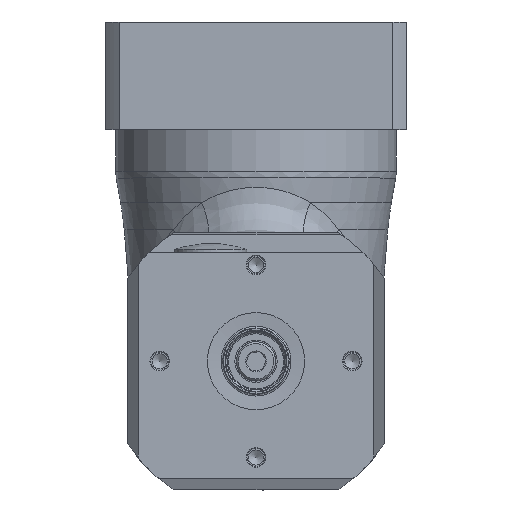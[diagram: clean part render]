
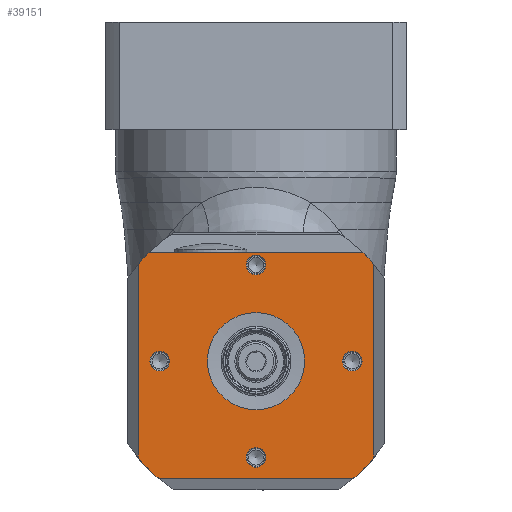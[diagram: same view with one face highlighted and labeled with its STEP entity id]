
A CAD part, top view. The second image highlights one B-rep face of the part: STEP entity #39151.
In plain terms, the highlighted planar face has unit normal (0, 0, 1).
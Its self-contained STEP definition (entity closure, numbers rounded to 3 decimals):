
#160 = CARTESIAN_POINT ( 'NONE',  ( -39., -50.5, 33. ) ) ;
#367 = DIRECTION ( 'NONE',  ( 1., 0., 0. ) ) ;
#584 = CARTESIAN_POINT ( 'NONE',  ( -16.094, 0., 33. ) ) ;
#605 = CARTESIAN_POINT ( 'NONE',  ( 39., 42.5, 33. ) ) ;
#903 = EDGE_CURVE ( 'NONE', #76636, #70971, #60408, .T. ) ;
#2125 = VECTOR ( 'NONE', #49199, 1000. ) ;
#3102 = VERTEX_POINT ( 'NONE', #27144 ) ;
#4129 = EDGE_CURVE ( 'NONE', #72243, #72243, #63704, .T. ) ;
#4152 = ORIENTED_EDGE ( 'NONE', *, *, #39782, .F. ) ;
#4273 = VERTEX_POINT ( 'NONE', #76836 ) ;
#5634 = CARTESIAN_POINT ( 'NONE',  ( -42.5, 36., 33. ) ) ;
#6003 = PLANE ( 'NONE',  #28540 ) ;
#6391 = FACE_BOUND ( 'NONE', #43576, .T. ) ;
#6790 = CARTESIAN_POINT ( 'NONE',  ( 0., 50.5, 33. ) ) ;
#6831 = ORIENTED_EDGE ( 'NONE', *, *, #903, .F. ) ;
#7122 = CARTESIAN_POINT ( 'NONE',  ( 3.25, 31.877, 33. ) ) ;
#7443 = VECTOR ( 'NONE', #60009, 1000. ) ;
#7798 = VERTEX_POINT ( 'NONE', #584 ) ;
#8491 = DIRECTION ( 'NONE',  ( -1., 0., 0. ) ) ;
#9230 = AXIS2_PLACEMENT_3D ( 'NONE', #54234, #13235, #78554 ) ;
#10264 = AXIS2_PLACEMENT_3D ( 'NONE', #21172, #20414, #44675 ) ;
#11270 = DIRECTION ( 'NONE',  ( 1., 0., 0. ) ) ;
#13235 = DIRECTION ( 'NONE',  ( 0., 0., 1. ) ) ;
#14472 = CARTESIAN_POINT ( 'NONE',  ( 0., 0., 33. ) ) ;
#14499 = VERTEX_POINT ( 'NONE', #34654 ) ;
#14635 = CARTESIAN_POINT ( 'NONE',  ( 39., 32.082, 33. ) ) ;
#17200 = AXIS2_PLACEMENT_3D ( 'NONE', #62611, #21512, #45799 ) ;
#17595 = CARTESIAN_POINT ( 'NONE',  ( -39., -32.082, 33. ) ) ;
#19543 = FACE_BOUND ( 'NONE', #66910, .T. ) ;
#20414 = DIRECTION ( 'NONE',  ( 0., 0., 1. ) ) ;
#21172 = CARTESIAN_POINT ( 'NONE',  ( -31.877, 0., 33. ) ) ;
#21512 = DIRECTION ( 'NONE',  ( 0., 0., -1. ) ) ;
#22018 = CARTESIAN_POINT ( 'NONE',  ( 0., -31.877, 33. ) ) ;
#22880 = EDGE_LOOP ( 'NONE', ( #70028 ) ) ;
#23570 = DIRECTION ( 'NONE',  ( 1., 0., 0. ) ) ;
#24251 = AXIS2_PLACEMENT_3D ( 'NONE', #22018, #46288, #27210 ) ;
#24257 = EDGE_LOOP ( 'NONE', ( #4152, #6831, #32017, #49709, #28465, #77089, #52442, #40860 ) ) ;
#24759 = CIRCLE ( 'NONE', #57779, 50.5 ) ;
#26947 = EDGE_CURVE ( 'NONE', #33069, #33069, #46033, .T. ) ;
#27144 = CARTESIAN_POINT ( 'NONE',  ( 32.082, -39., 33. ) ) ;
#27210 = DIRECTION ( 'NONE',  ( 1., 0., 0. ) ) ;
#27328 = ORIENTED_EDGE ( 'NONE', *, *, #26947, .F. ) ;
#28465 = ORIENTED_EDGE ( 'NONE', *, *, #29703, .F. ) ;
#28540 = AXIS2_PLACEMENT_3D ( 'NONE', #6790, #30681, #367 ) ;
#28781 = AXIS2_PLACEMENT_3D ( 'NONE', #71835, #53440, #11270 ) ;
#29703 = EDGE_CURVE ( 'NONE', #3102, #53754, #45955, .T. ) ;
#30681 = DIRECTION ( 'NONE',  ( 0., 0., 1. ) ) ;
#30791 = CARTESIAN_POINT ( 'NONE',  ( 0., 0., 33. ) ) ;
#30856 = ORIENTED_EDGE ( 'NONE', *, *, #67515, .F. ) ;
#32017 = ORIENTED_EDGE ( 'NONE', *, *, #43970, .F. ) ;
#32880 = CIRCLE ( 'NONE', #49395, 50.5 ) ;
#33069 = VERTEX_POINT ( 'NONE', #56572 ) ;
#34654 = CARTESIAN_POINT ( 'NONE',  ( 35.415, 36., 33. ) ) ;
#36674 = FACE_BOUND ( 'NONE', #22880, .T. ) ;
#36830 = EDGE_CURVE ( 'NONE', #53754, #38184, #24759, .T. ) ;
#36893 = LINE ( 'NONE', #605, #7443 ) ;
#37086 = EDGE_CURVE ( 'NONE', #7798, #7798, #64172, .T. ) ;
#37747 = EDGE_CURVE ( 'NONE', #14499, #61545, #41339, .T. ) ;
#38184 = VERTEX_POINT ( 'NONE', #17595 ) ;
#38745 = DIRECTION ( 'NONE',  ( 0., 0., -1. ) ) ;
#39151 = ADVANCED_FACE ( 'NONE', ( #54963, #36674, #19543, #67763, #61359, #6391 ), #6003, .T. ) ;
#39782 = EDGE_CURVE ( 'NONE', #70971, #14499, #77726, .T. ) ;
#40103 = VECTOR ( 'NONE', #23570, 1000. ) ;
#40860 = ORIENTED_EDGE ( 'NONE', *, *, #37747, .F. ) ;
#41339 = CIRCLE ( 'NONE', #46397, 50.5 ) ;
#41691 = DIRECTION ( 'NONE',  ( -1., 0., 0. ) ) ;
#42733 = DIRECTION ( 'NONE',  ( -1., 0., 0. ) ) ;
#43576 = EDGE_LOOP ( 'NONE', ( #44342 ) ) ;
#43970 = EDGE_CURVE ( 'NONE', #38184, #76636, #67148, .T. ) ;
#44342 = ORIENTED_EDGE ( 'NONE', *, *, #37086, .T. ) ;
#44675 = DIRECTION ( 'NONE',  ( 1., 0., 0. ) ) ;
#45088 = AXIS2_PLACEMENT_3D ( 'NONE', #14472, #38745, #8491 ) ;
#45212 = EDGE_LOOP ( 'NONE', ( #57664 ) ) ;
#45799 = DIRECTION ( 'NONE',  ( -1., 0., 0. ) ) ;
#45955 = LINE ( 'NONE', #70305, #69295 ) ;
#46033 = CIRCLE ( 'NONE', #9230, 3.25 ) ;
#46074 = EDGE_CURVE ( 'NONE', #61545, #4273, #36893, .T. ) ;
#46288 = DIRECTION ( 'NONE',  ( 0., 0., 1. ) ) ;
#46397 = AXIS2_PLACEMENT_3D ( 'NONE', #52817, #53591, #71583 ) ;
#49199 = DIRECTION ( 'NONE',  ( 0., 1., 0. ) ) ;
#49395 = AXIS2_PLACEMENT_3D ( 'NONE', #65622, #59253, #41691 ) ;
#49709 = ORIENTED_EDGE ( 'NONE', *, *, #36830, .F. ) ;
#52442 = ORIENTED_EDGE ( 'NONE', *, *, #46074, .F. ) ;
#52453 = CARTESIAN_POINT ( 'NONE',  ( -32.082, -39., 33. ) ) ;
#52817 = CARTESIAN_POINT ( 'NONE',  ( 0., 0., 33. ) ) ;
#53090 = DIRECTION ( 'NONE',  ( -1., 0., 0. ) ) ;
#53440 = DIRECTION ( 'NONE',  ( 0., 0., 1. ) ) ;
#53470 = CARTESIAN_POINT ( 'NONE',  ( -28.627, 0., 33. ) ) ;
#53591 = DIRECTION ( 'NONE',  ( 0., 0., -1. ) ) ;
#53754 = VERTEX_POINT ( 'NONE', #52453 ) ;
#54234 = CARTESIAN_POINT ( 'NONE',  ( 31.877, 0., 33. ) ) ;
#54486 = VERTEX_POINT ( 'NONE', #7122 ) ;
#54963 = FACE_BOUND ( 'NONE', #45212, .T. ) ;
#55465 = CARTESIAN_POINT ( 'NONE',  ( -39., 32.082, 33. ) ) ;
#56269 = DIRECTION ( 'NONE',  ( 0., 0., -1. ) ) ;
#56366 = CARTESIAN_POINT ( 'NONE',  ( -35.415, 36., 33. ) ) ;
#56572 = CARTESIAN_POINT ( 'NONE',  ( 35.127, 0., 33. ) ) ;
#57664 = ORIENTED_EDGE ( 'NONE', *, *, #73468, .F. ) ;
#57779 = AXIS2_PLACEMENT_3D ( 'NONE', #30791, #56269, #42733 ) ;
#59253 = DIRECTION ( 'NONE',  ( 0., 0., -1. ) ) ;
#60009 = DIRECTION ( 'NONE',  ( 0., -1., 0. ) ) ;
#60408 = CIRCLE ( 'NONE', #17200, 50.5 ) ;
#61359 = FACE_OUTER_BOUND ( 'NONE', #24257, .T. ) ;
#61545 = VERTEX_POINT ( 'NONE', #14635 ) ;
#62192 = EDGE_CURVE ( 'NONE', #4273, #3102, #32880, .T. ) ;
#62584 = VERTEX_POINT ( 'NONE', #70124 ) ;
#62611 = CARTESIAN_POINT ( 'NONE',  ( 0., 0., 33. ) ) ;
#63704 = CIRCLE ( 'NONE', #10264, 3.25 ) ;
#64172 = CIRCLE ( 'NONE', #45088, 16.094 ) ;
#65622 = CARTESIAN_POINT ( 'NONE',  ( 0., 0., 33. ) ) ;
#66910 = EDGE_LOOP ( 'NONE', ( #30856 ) ) ;
#67148 = LINE ( 'NONE', #160, #2125 ) ;
#67515 = EDGE_CURVE ( 'NONE', #62584, #62584, #70115, .T. ) ;
#67763 = FACE_BOUND ( 'NONE', #72318, .T. ) ;
#69295 = VECTOR ( 'NONE', #53090, 1000. ) ;
#70028 = ORIENTED_EDGE ( 'NONE', *, *, #4129, .F. ) ;
#70115 = CIRCLE ( 'NONE', #24251, 3.25 ) ;
#70124 = CARTESIAN_POINT ( 'NONE',  ( 3.25, -31.877, 33. ) ) ;
#70305 = CARTESIAN_POINT ( 'NONE',  ( 50.5, -39., 33. ) ) ;
#70971 = VERTEX_POINT ( 'NONE', #56366 ) ;
#71583 = DIRECTION ( 'NONE',  ( -1., 0., 0. ) ) ;
#71835 = CARTESIAN_POINT ( 'NONE',  ( 0., 31.877, 33. ) ) ;
#72243 = VERTEX_POINT ( 'NONE', #53470 ) ;
#72318 = EDGE_LOOP ( 'NONE', ( #27328 ) ) ;
#73468 = EDGE_CURVE ( 'NONE', #54486, #54486, #78417, .T. ) ;
#76636 = VERTEX_POINT ( 'NONE', #55465 ) ;
#76836 = CARTESIAN_POINT ( 'NONE',  ( 39., -32.082, 33. ) ) ;
#77089 = ORIENTED_EDGE ( 'NONE', *, *, #62192, .F. ) ;
#77726 = LINE ( 'NONE', #5634, #40103 ) ;
#78417 = CIRCLE ( 'NONE', #28781, 3.25 ) ;
#78554 = DIRECTION ( 'NONE',  ( 1., 0., 0. ) ) ;
